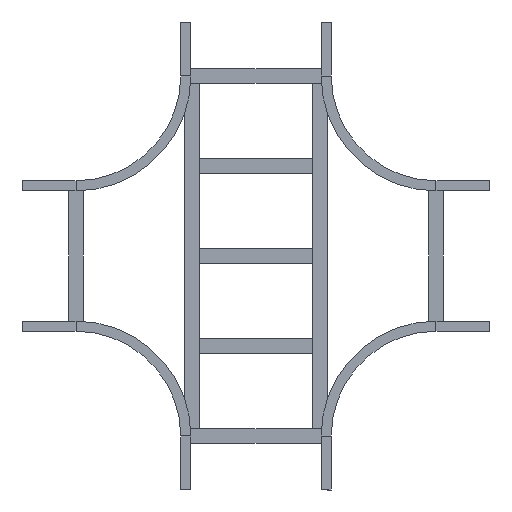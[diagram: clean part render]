
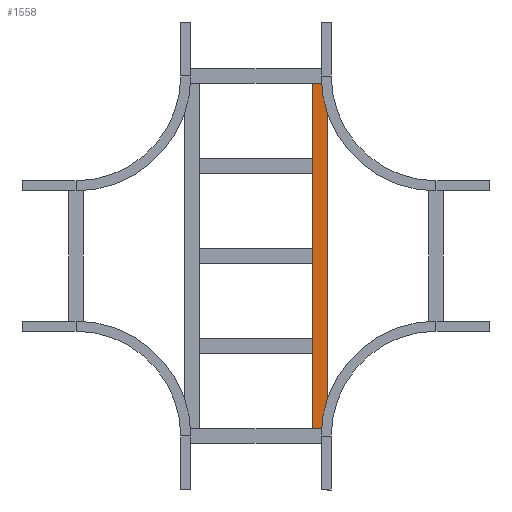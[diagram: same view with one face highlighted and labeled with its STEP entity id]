
A CAD part, front view. The second image highlights one B-rep face of the part: STEP entity #1558.
In plain terms, the highlighted planar face has unit normal (0, -1, 0).
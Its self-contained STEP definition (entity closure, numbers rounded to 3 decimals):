
#144 = VECTOR ( 'NONE', #1892, 1000. ) ;
#241 = ORIENTED_EDGE ( 'NONE', *, *, #2099, .T. ) ;
#279 = CARTESIAN_POINT ( 'NONE',  ( 479.75, 0., -20.25 ) ) ;
#347 = CARTESIAN_POINT ( 'NONE',  ( -479.75, 0., 20.25 ) ) ;
#396 = VERTEX_POINT ( 'NONE', #279 ) ;
#412 = ORIENTED_EDGE ( 'NONE', *, *, #1349, .F. ) ;
#532 = DIRECTION ( 'NONE',  ( 0., 0., 1. ) ) ;
#633 = VECTOR ( 'NONE', #1873, 1000. ) ;
#637 = LINE ( 'NONE', #1353, #144 ) ;
#639 = EDGE_CURVE ( 'NONE', #2215, #947, #637, .T. ) ;
#642 = LINE ( 'NONE', #2210, #633 ) ;
#675 = CARTESIAN_POINT ( 'NONE',  ( 479.75, 0., 20.25 ) ) ;
#686 = PLANE ( 'NONE',  #1147 ) ;
#889 = VERTEX_POINT ( 'NONE', #1488 ) ;
#947 = VERTEX_POINT ( 'NONE', #1350 ) ;
#991 = DIRECTION ( 'NONE',  ( 0., 0., -1. ) ) ;
#1021 = ORIENTED_EDGE ( 'NONE', *, *, #639, .T. ) ;
#1147 = AXIS2_PLACEMENT_3D ( 'NONE', #675, #1735, #532 ) ;
#1239 = LINE ( 'NONE', #347, #2177 ) ;
#1313 = EDGE_CURVE ( 'NONE', #2215, #396, #2234, .T. ) ;
#1349 = EDGE_CURVE ( 'NONE', #396, #889, #642, .T. ) ;
#1350 = CARTESIAN_POINT ( 'NONE',  ( -479.75, 0., 20.25 ) ) ;
#1353 = CARTESIAN_POINT ( 'NONE',  ( 479.75, 0., 20.25 ) ) ;
#1457 = CARTESIAN_POINT ( 'NONE',  ( 479.75, 0., 20.25 ) ) ;
#1488 = CARTESIAN_POINT ( 'NONE',  ( -479.75, 0., -20.25 ) ) ;
#1558 = ADVANCED_FACE ( 'NONE', ( #2267 ), #686, .F. ) ;
#1595 = DIRECTION ( 'NONE',  ( 0., 0., -1. ) ) ;
#1722 = CARTESIAN_POINT ( 'NONE',  ( 479.75, 0., 20.25 ) ) ;
#1735 = DIRECTION ( 'NONE',  ( 0., 1., 0. ) ) ;
#1736 = VECTOR ( 'NONE', #991, 1000. ) ;
#1779 = EDGE_LOOP ( 'NONE', ( #241, #412, #2176, #1021 ) ) ;
#1873 = DIRECTION ( 'NONE',  ( -1., 0., 0. ) ) ;
#1892 = DIRECTION ( 'NONE',  ( -1., 0., 0. ) ) ;
#2099 = EDGE_CURVE ( 'NONE', #947, #889, #1239, .T. ) ;
#2176 = ORIENTED_EDGE ( 'NONE', *, *, #1313, .F. ) ;
#2177 = VECTOR ( 'NONE', #1595, 1000. ) ;
#2210 = CARTESIAN_POINT ( 'NONE',  ( 479.75, 0., -20.25 ) ) ;
#2215 = VERTEX_POINT ( 'NONE', #1457 ) ;
#2234 = LINE ( 'NONE', #1722, #1736 ) ;
#2267 = FACE_OUTER_BOUND ( 'NONE', #1779, .T. ) ;
